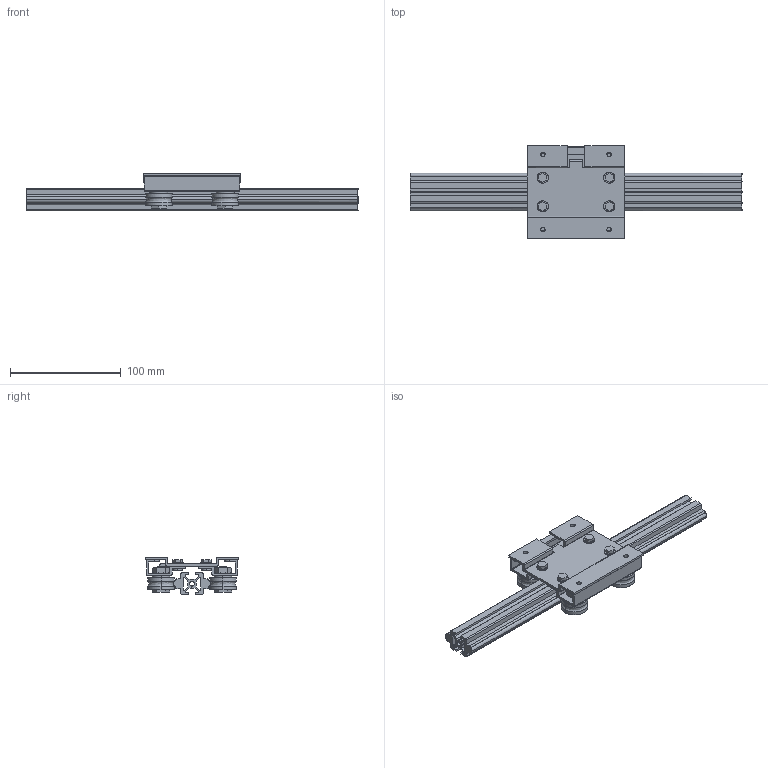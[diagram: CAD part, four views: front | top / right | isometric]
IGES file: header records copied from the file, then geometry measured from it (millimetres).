
Global section: file name: No Iges File Name specified; native system: AutoDesk Inventor R11.0; preprocessor: AutoDesk Inventor Iges Exporter R11.0; author: No Author specified; organization: No Organization specified; date: 20170802.092303; units: millimetre
Bounding box: 300 x 84 x 34 mm (x, y, z)
Surface area: 105180.2 mm2 (no closed solid volume)
Topology: 0 solids, 0 shells, 432 faces, 2590 edges, 2590 vertices
Faces by surface type: bspline 432
